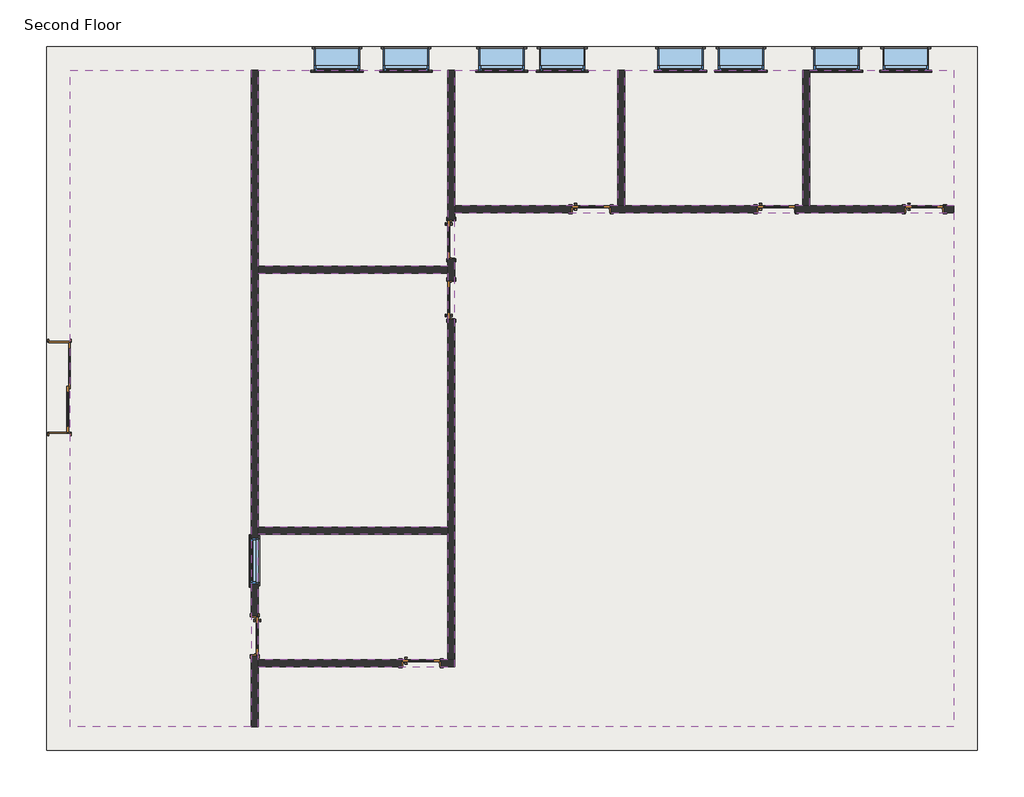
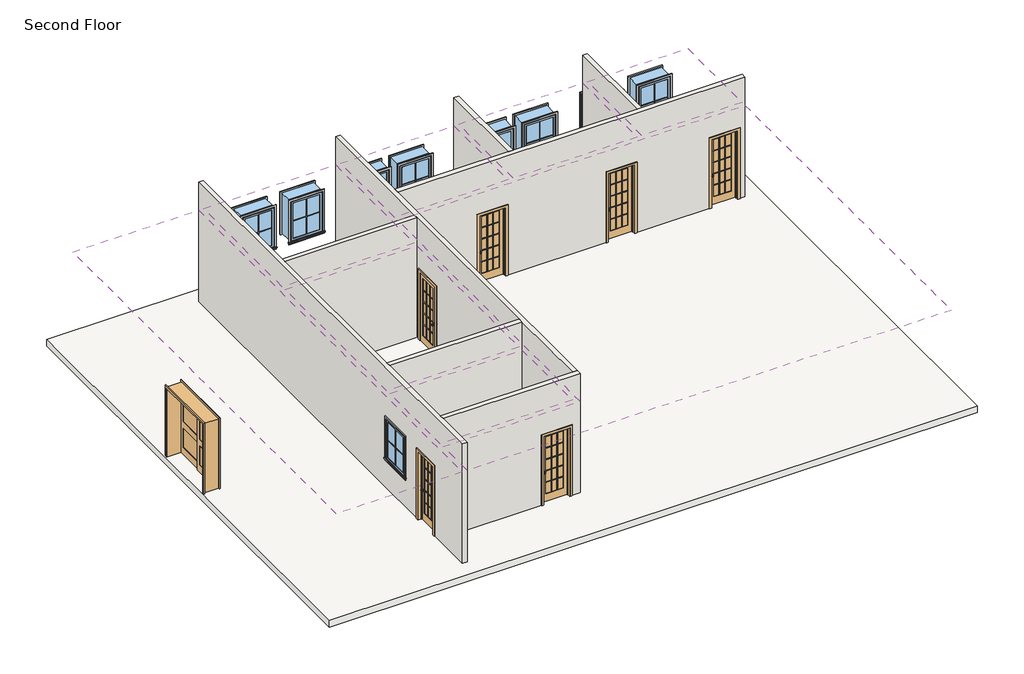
# One storey: 27 proxies, 9 windows, 8 coverings, 8 doors, 8 walls, 1 slab.
"""IFC4 building model written with IfcOpenShell, lengths in millimetres."""

from ifc_helpers import new_model, si_unit, frame, origin, place, context, project, spatial, polyline, outline, extrude, faceted_brep, transform, mapped, element, save
from components import muntin_pattern_2x2_muntin_pattern_2x2_49331bd8, muntin_pattern_2x2_muntin_pattern_2x2_a8e7a107, trim_window_exterior_flat_with_sill_cdc255b3, trim_window_exterior_flat_with_sill_0ab60cae, trim_window_interior_flat_picture_frame_ab41cb78, trim_window_interior_flat_picture_frame_2efe6088, m_door_interior_double_sliding_2_panel_wood_1800_x_2100mm_b8cd72e9, m_door_interior_single_full_glass_wood_750_x_2100mm_ded28596, m_door_interior_single_full_glass_wood_750_x_2100mm_01f99739, window_awning_single_915_x_1220_b06b9331, window_awning_single_915_x_1220_597a1cb3, window_awning_single_915_x_1220_ba5cffbd

model = new_model("IFC4")

# Units and contexts
model_context = context("Model", 3, world=origin())
ifc_project = project(units=[si_unit("LENGTHUNIT", "METRE", prefix="MILLI")], contexts=[model_context])

# Site, building, storey
site = spatial("IfcSite", under=ifc_project)
building = spatial("IfcBuilding", under=site)
storey = spatial("IfcBuildingStorey", under=building, Name="Second Floor", Elevation=7200.0)

# Proxies
placement = place(None, origin())
muntin_pattern_2x2_muntin_pattern_2x2_shape = muntin_pattern_2x2_muntin_pattern_2x2_49331bd8(model_context)
element("IfcBuildingElementProxy", 1, Name="Muntin Pattern_2x2 : Muntin Pattern_2x2", ObjectType="Muntin Pattern_2x2 : Muntin Pattern_2x2", at=placement, inside=storey, context=model_context, shape_type="MappedRepresentation", body=[
    mapped(muntin_pattern_2x2_muntin_pattern_2x2_shape, transform((-13370.5350037, -4799.4136534, 8184.25), x_axis=(0.0, 1.0, 0.0), y_axis=(-1.0, 0.0, 0.0), z_axis=(0.0, 0.0, 1.0))),
])
element("IfcBuildingElementProxy", 2, Name="Muntin Pattern_2x2 : Muntin Pattern_2x2", ObjectType="Muntin Pattern_2x2 : Muntin Pattern_2x2", at=placement, inside=storey, context=model_context, shape_type="MappedRepresentation", body=[
    mapped(muntin_pattern_2x2_muntin_pattern_2x2_shape, transform((-1590.3100037, 5089.7613466, 8184.25), x_axis=(-1.0, 0.0, 0.0), y_axis=(0.0, -1.0, 0.0), z_axis=(0.0, 0.0, 1.0))),
])
element("IfcBuildingElementProxy", 3, Name="Muntin Pattern_2x2 : Muntin Pattern_2x2", ObjectType="Muntin Pattern_2x2 : Muntin Pattern_2x2", at=placement, inside=storey, context=model_context, shape_type="MappedRepresentation", body=[
    mapped(muntin_pattern_2x2_muntin_pattern_2x2_shape, transform((-198.934993, 5089.7613466, 8184.25), x_axis=(-1.0, 0.0, 0.0), y_axis=(0.0, -1.0, 0.0), z_axis=(0.0, 0.0, 1.0))),
])
element("IfcBuildingElementProxy", 4, Name="Muntin Pattern_2x2 : Muntin Pattern_2x2", ObjectType="Muntin Pattern_2x2 : Muntin Pattern_2x2", at=placement, inside=storey, context=model_context, shape_type="MappedRepresentation", body=[
    mapped(muntin_pattern_2x2_muntin_pattern_2x2_shape, transform((-3517.3100037, 5089.7613466, 8184.25), x_axis=(-1.0, 0.0, 0.0), y_axis=(0.0, -1.0, 0.0), z_axis=(0.0, 0.0, 1.0))),
])
element("IfcBuildingElementProxy", 5, Name="Muntin Pattern_2x2 : Muntin Pattern_2x2", ObjectType="Muntin Pattern_2x2 : Muntin Pattern_2x2", at=placement, inside=storey, context=model_context, shape_type="MappedRepresentation", body=[
    mapped(muntin_pattern_2x2_muntin_pattern_2x2_shape, transform((-4736.5100037, 5089.7613466, 8184.25), x_axis=(-1.0, 0.0, 0.0), y_axis=(0.0, -1.0, 0.0), z_axis=(0.0, 0.0, 1.0))),
])
muntin_pattern_2x2_muntin_pattern_2x2_2_shape = muntin_pattern_2x2_muntin_pattern_2x2_a8e7a107(model_context)
element("IfcBuildingElementProxy", 6, Name="Muntin Pattern_2x2 : Muntin Pattern_2x2", ObjectType="Muntin Pattern_2x2 : Muntin Pattern_2x2", at=placement, inside=storey, context=model_context, shape_type="MappedRepresentation", body=[
    mapped(muntin_pattern_2x2_muntin_pattern_2x2_2_shape, transform((-10263.2100037, 5089.7613466, 8184.25), x_axis=(1.0, 0.0, 0.0), y_axis=(0.0, 1.0, 0.0), z_axis=(0.0, 0.0, 1.0))),
])
element("IfcBuildingElementProxy", 7, Name="Muntin Pattern_2x2 : Muntin Pattern_2x2", ObjectType="Muntin Pattern_2x2 : Muntin Pattern_2x2", at=placement, inside=storey, context=model_context, shape_type="MappedRepresentation", body=[
    mapped(muntin_pattern_2x2_muntin_pattern_2x2_2_shape, transform((-11654.5850143, 5089.7613466, 8184.25), x_axis=(1.0, 0.0, 0.0), y_axis=(0.0, 1.0, 0.0), z_axis=(0.0, 0.0, 1.0))),
])
element("IfcBuildingElementProxy", 8, Name="Muntin Pattern_2x2 : Muntin Pattern_2x2", ObjectType="Muntin Pattern_2x2 : Muntin Pattern_2x2", at=placement, inside=storey, context=model_context, shape_type="MappedRepresentation", body=[
    mapped(muntin_pattern_2x2_muntin_pattern_2x2_2_shape, transform((-8336.2100037, 5089.7613466, 8184.25), x_axis=(1.0, 0.0, 0.0), y_axis=(0.0, 1.0, 0.0), z_axis=(0.0, 0.0, 1.0))),
])
element("IfcBuildingElementProxy", 9, Name="Muntin Pattern_2x2 : Muntin Pattern_2x2", ObjectType="Muntin Pattern_2x2 : Muntin Pattern_2x2", at=placement, inside=storey, context=model_context, shape_type="MappedRepresentation", body=[
    mapped(muntin_pattern_2x2_muntin_pattern_2x2_2_shape, transform((-7117.0100037, 5089.7613466, 8184.25), x_axis=(1.0, 0.0, 0.0), y_axis=(0.0, 1.0, 0.0), z_axis=(0.0, 0.0, 1.0))),
])
trim_window_exterior_flat_with_sill_shape = trim_window_exterior_flat_with_sill_cdc255b3(model_context)
element("IfcBuildingElementProxy", 10, Name="Trim-Window-Exterior-Flat : with Sill", ObjectType="Trim-Window-Exterior-Flat : with Sill", at=placement, inside=storey, context=model_context, shape_type="MappedRepresentation", body=[
    mapped(trim_window_exterior_flat_with_sill_shape, transform((-13380.0600037, -4799.4136534, 9334.4), x_axis=(0.0, -1.0, 0.0), y_axis=(0.0, 0.0, 1.0), z_axis=(-1.0, 0.0, 0.0))),
])
element("IfcBuildingElementProxy", 11, Name="Trim-Window-Exterior-Flat : with Sill", ObjectType="Trim-Window-Exterior-Flat : with Sill", at=placement, inside=storey, context=model_context, shape_type="MappedRepresentation", body=[
    mapped(trim_window_exterior_flat_with_sill_shape, transform((-1590.3100037, 5080.2363466, 9334.4), x_axis=(1.0, 0.0, 0.0), y_axis=(0.0, 0.0, 1.0), z_axis=(0.0, -1.0, 0.0))),
])
element("IfcBuildingElementProxy", 12, Name="Trim-Window-Exterior-Flat : with Sill", ObjectType="Trim-Window-Exterior-Flat : with Sill", at=placement, inside=storey, context=model_context, shape_type="MappedRepresentation", body=[
    mapped(trim_window_exterior_flat_with_sill_shape, transform((-198.934993, 5080.2363466, 9334.4), x_axis=(1.0, 0.0, 0.0), y_axis=(0.0, 0.0, 1.0), z_axis=(0.0, -1.0, 0.0))),
])
element("IfcBuildingElementProxy", 13, Name="Trim-Window-Exterior-Flat : with Sill", ObjectType="Trim-Window-Exterior-Flat : with Sill", at=placement, inside=storey, context=model_context, shape_type="MappedRepresentation", body=[
    mapped(trim_window_exterior_flat_with_sill_shape, transform((-3517.3100037, 5080.2363466, 9334.4), x_axis=(1.0, 0.0, 0.0), y_axis=(0.0, 0.0, 1.0), z_axis=(0.0, -1.0, 0.0))),
])
element("IfcBuildingElementProxy", 14, Name="Trim-Window-Exterior-Flat : with Sill", ObjectType="Trim-Window-Exterior-Flat : with Sill", at=placement, inside=storey, context=model_context, shape_type="MappedRepresentation", body=[
    mapped(trim_window_exterior_flat_with_sill_shape, transform((-4736.5100037, 5080.2363466, 9334.4), x_axis=(1.0, 0.0, 0.0), y_axis=(0.0, 0.0, 1.0), z_axis=(0.0, -1.0, 0.0))),
])
trim_window_exterior_flat_with_sill_2_shape = trim_window_exterior_flat_with_sill_0ab60cae(model_context)
element("IfcBuildingElementProxy", 15, Name="Trim-Window-Exterior-Flat : with Sill", ObjectType="Trim-Window-Exterior-Flat : with Sill", at=placement, inside=storey, context=model_context, shape_type="MappedRepresentation", body=[
    mapped(trim_window_exterior_flat_with_sill_2_shape, transform((-10263.2100037, 5080.2363466, 9334.4), x_axis=(-1.0, 0.0, 0.0), y_axis=(0.0, 0.0, -1.0), z_axis=(0.0, -1.0, 0.0))),
])
element("IfcBuildingElementProxy", 16, Name="Trim-Window-Exterior-Flat : with Sill", ObjectType="Trim-Window-Exterior-Flat : with Sill", at=placement, inside=storey, context=model_context, shape_type="MappedRepresentation", body=[
    mapped(trim_window_exterior_flat_with_sill_2_shape, transform((-11654.5850143, 5080.2363466, 9334.4), x_axis=(-1.0, 0.0, 0.0), y_axis=(0.0, 0.0, -1.0), z_axis=(0.0, -1.0, 0.0))),
])
element("IfcBuildingElementProxy", 17, Name="Trim-Window-Exterior-Flat : with Sill", ObjectType="Trim-Window-Exterior-Flat : with Sill", at=placement, inside=storey, context=model_context, shape_type="MappedRepresentation", body=[
    mapped(trim_window_exterior_flat_with_sill_2_shape, transform((-8336.2100037, 5080.2363466, 9334.4), x_axis=(-1.0, 0.0, 0.0), y_axis=(0.0, 0.0, -1.0), z_axis=(0.0, -1.0, 0.0))),
])
element("IfcBuildingElementProxy", 18, Name="Trim-Window-Exterior-Flat : with Sill", ObjectType="Trim-Window-Exterior-Flat : with Sill", at=placement, inside=storey, context=model_context, shape_type="MappedRepresentation", body=[
    mapped(trim_window_exterior_flat_with_sill_2_shape, transform((-7117.0100037, 5080.2363466, 9334.4), x_axis=(-1.0, 0.0, 0.0), y_axis=(0.0, 0.0, -1.0), z_axis=(0.0, -1.0, 0.0))),
])
trim_window_interior_flat_picture_frame_shape = trim_window_interior_flat_picture_frame_ab41cb78(model_context)
element("IfcBuildingElementProxy", 19, Name="Trim-Window-Interior-Flat : Picture Frame", ObjectType="Trim-Window-Interior-Flat : Picture Frame", at=placement, inside=storey, context=model_context, shape_type="MappedRepresentation", body=[
    mapped(trim_window_interior_flat_picture_frame_shape, transform((-13241.5600037, -4799.4136534, 9334.4), x_axis=(0.0, 1.0, 0.0), y_axis=(0.0, 0.0, 1.0), z_axis=(1.0, 0.0, 0.0))),
])
element("IfcBuildingElementProxy", 20, Name="Trim-Window-Interior-Flat : Picture Frame", ObjectType="Trim-Window-Interior-Flat : Picture Frame", at=placement, inside=storey, context=model_context, shape_type="MappedRepresentation", body=[
    mapped(trim_window_interior_flat_picture_frame_shape, transform((-1590.3100037, 5509.2363466, 9334.4), x_axis=(-1.0, 0.0, 0.0), y_axis=(0.0, 0.0, 1.0), z_axis=(0.0, 1.0, 0.0))),
])
element("IfcBuildingElementProxy", 21, Name="Trim-Window-Interior-Flat : Picture Frame", ObjectType="Trim-Window-Interior-Flat : Picture Frame", at=placement, inside=storey, context=model_context, shape_type="MappedRepresentation", body=[
    mapped(trim_window_interior_flat_picture_frame_shape, transform((-198.934993, 5509.2363466, 9334.4), x_axis=(-1.0, 0.0, 0.0), y_axis=(0.0, 0.0, 1.0), z_axis=(0.0, 1.0, 0.0))),
])
element("IfcBuildingElementProxy", 22, Name="Trim-Window-Interior-Flat : Picture Frame", ObjectType="Trim-Window-Interior-Flat : Picture Frame", at=placement, inside=storey, context=model_context, shape_type="MappedRepresentation", body=[
    mapped(trim_window_interior_flat_picture_frame_shape, transform((-3517.3100037, 5509.2363466, 9334.4), x_axis=(-1.0, 0.0, 0.0), y_axis=(0.0, 0.0, 1.0), z_axis=(0.0, 1.0, 0.0))),
])
element("IfcBuildingElementProxy", 23, Name="Trim-Window-Interior-Flat : Picture Frame", ObjectType="Trim-Window-Interior-Flat : Picture Frame", at=placement, inside=storey, context=model_context, shape_type="MappedRepresentation", body=[
    mapped(trim_window_interior_flat_picture_frame_shape, transform((-4736.5100037, 5509.2363466, 9334.4), x_axis=(-1.0, 0.0, 0.0), y_axis=(0.0, 0.0, 1.0), z_axis=(0.0, 1.0, 0.0))),
])
trim_window_interior_flat_picture_frame_2_shape = trim_window_interior_flat_picture_frame_2efe6088(model_context)
element("IfcBuildingElementProxy", 24, Name="Trim-Window-Interior-Flat : Picture Frame", ObjectType="Trim-Window-Interior-Flat : Picture Frame", at=placement, inside=storey, context=model_context, shape_type="MappedRepresentation", body=[
    mapped(trim_window_interior_flat_picture_frame_2_shape, transform((-10263.2100037, 5509.2363466, 9334.4), x_axis=(1.0, 0.0, 0.0), y_axis=(0.0, 0.0, -1.0), z_axis=(0.0, 1.0, 0.0))),
])
element("IfcBuildingElementProxy", 25, Name="Trim-Window-Interior-Flat : Picture Frame", ObjectType="Trim-Window-Interior-Flat : Picture Frame", at=placement, inside=storey, context=model_context, shape_type="MappedRepresentation", body=[
    mapped(trim_window_interior_flat_picture_frame_2_shape, transform((-11654.5850143, 5509.2363466, 9334.4), x_axis=(1.0, 0.0, 0.0), y_axis=(0.0, 0.0, -1.0), z_axis=(0.0, 1.0, 0.0))),
])
element("IfcBuildingElementProxy", 26, Name="Trim-Window-Interior-Flat : Picture Frame", ObjectType="Trim-Window-Interior-Flat : Picture Frame", at=placement, inside=storey, context=model_context, shape_type="MappedRepresentation", body=[
    mapped(trim_window_interior_flat_picture_frame_2_shape, transform((-8336.2100037, 5509.2363466, 9334.4), x_axis=(1.0, 0.0, 0.0), y_axis=(0.0, 0.0, -1.0), z_axis=(0.0, 1.0, 0.0))),
])
element("IfcBuildingElementProxy", 27, Name="Trim-Window-Interior-Flat : Picture Frame", ObjectType="Trim-Window-Interior-Flat : Picture Frame", at=placement, inside=storey, context=model_context, shape_type="MappedRepresentation", body=[
    mapped(trim_window_interior_flat_picture_frame_2_shape, transform((-7117.0100037, 5509.2363466, 9334.4), x_axis=(1.0, 0.0, 0.0), y_axis=(0.0, 0.0, -1.0), z_axis=(0.0, 1.0, 0.0))),
])

# Coverings
element("IfcCovering", 28, ObjectType="Plain", at=placement, inside=storey, context=model_context, shape_type="SweptSolid", body=[
    extrude(outline(polyline([(-17024.8100037, 5080.2363466), (-13380.0600037, 5080.2363466), (-13380.0600037, -8139.7636534), (-17024.8100037, -8139.7636534), (-17024.8100037, 5080.2363466)])), frame((0.0, 0.0, 10000.0), z_axis=(0.0, 0.0, 1.0), x_axis=(1.0, 0.0, 0.0)), (0.0, 0.0, 1.0), 57.0),
])
element("IfcCovering", 29, ObjectType="Plain", at=placement, inside=storey, context=model_context, shape_type="SweptSolid", body=[
    extrude(outline(polyline([(-13241.5600037, 1130.2863466), (-13241.5600037, 5080.2363466), (-9418.0600037, 5080.2363466), (-9418.0600037, 1130.2863466), (-13241.5600037, 1130.2863466)])), frame((0.0, 0.0, 10000.0), z_axis=(0.0, 0.0, 1.0), x_axis=(1.0, 0.0, 0.0)), (0.0, 0.0, 1.0), 57.0),
])
element("IfcCovering", 30, ObjectType="Plain", at=placement, inside=storey, context=model_context, shape_type="SweptSolid", body=[
    extrude(outline(polyline([(-9418.0600037, -4120.5636534), (-13241.5600037, -4120.5636534), (-13241.5600037, 991.7863466), (-9418.0600037, 991.7863466), (-9418.0600037, -4120.5636534)])), frame((0.0, 0.0, 10000.0), z_axis=(0.0, 0.0, 1.0), x_axis=(1.0, 0.0, 0.0)), (0.0, 0.0, 1.0), 57.0),
])
element("IfcCovering", 31, ObjectType="Plain", at=placement, inside=storey, context=model_context, shape_type="SweptSolid", body=[
    extrude(outline(polyline([(-9418.0600037, -6794.5136534), (-13241.5600037, -6794.5136534), (-13241.5600037, -4259.0636534), (-9418.0600037, -4259.0636534), (-9418.0600037, -6794.5136534)])), frame((0.0, 0.0, 10000.0), z_axis=(0.0, 0.0, 1.0), x_axis=(1.0, 0.0, 0.0)), (0.0, 0.0, 1.0), 57.0),
])
element("IfcCovering", 32, ObjectType="Plain", at=placement, inside=storey, context=model_context, shape_type="SweptSolid", body=[
    extrude(outline(polyline([(767.1899963, -8139.7636534), (-13241.5600037, -8139.7636534), (-13241.5600037, -6933.0136534), (-9279.5600037, -6933.0136534), (-9279.5600037, 2210.9863466), (767.1899963, 2210.9863466), (767.1899963, -8139.7636534)])), frame((0.0, 0.0, 10000.0), z_axis=(0.0, 0.0, 1.0), x_axis=(1.0, 0.0, 0.0)), (0.0, 0.0, 1.0), 57.0),
])
element("IfcCovering", 33, ObjectType="Plain", at=placement, inside=storey, context=model_context, shape_type="SweptSolid", body=[
    extrude(outline(polyline([(-9279.5600037, 5080.2363466), (-5996.0100037, 5080.2363466), (-5996.0100037, 2349.4863466), (-9279.5600037, 2349.4863466), (-9279.5600037, 5080.2363466)])), frame((0.0, 0.0, 10000.0), z_axis=(0.0, 0.0, 1.0), x_axis=(1.0, 0.0, 0.0)), (0.0, 0.0, 1.0), 57.0),
])
element("IfcCovering", 34, ObjectType="Plain", at=placement, inside=storey, context=model_context, shape_type="SweptSolid", body=[
    extrude(outline(polyline([(-5857.5100037, 2349.4863466), (-5857.5100037, 5080.2363466), (-2269.1600037, 5080.2363466), (-2269.1600037, 2349.4863466), (-5857.5100037, 2349.4863466)])), frame((0.0, 0.0, 10000.0), z_axis=(0.0, 0.0, 1.0), x_axis=(1.0, 0.0, 0.0)), (0.0, 0.0, 1.0), 57.0),
])
element("IfcCovering", 35, ObjectType="Plain", at=placement, inside=storey, context=model_context, shape_type="SweptSolid", body=[
    extrude(outline(polyline([(-2130.6600037, 2349.4863466), (-2130.6600037, 5080.2363466), (767.1899963, 5080.2363466), (767.1899963, 2349.4863466), (-2130.6600037, 2349.4863466)])), frame((0.0, 0.0, 10000.0), z_axis=(0.0, 0.0, 1.0), x_axis=(1.0, 0.0, 0.0)), (0.0, 0.0, 1.0), 57.0),
])

# Doors
m_door_interior_double_sliding_2_panel_wood_1800_x_2100mm_shape = m_door_interior_double_sliding_2_panel_wood_1800_x_2100mm_b8cd72e9(model_context)
element("IfcDoor", 36, ObjectType="M_Door-Interior-Double-Sliding-2_Panel-Wood : 1800 x 2100mm", at=placement, inside=storey, context=model_context, shape_type="MappedRepresentation", body=[
    mapped(m_door_interior_double_sliding_2_panel_wood_1800_x_2100mm_shape, transform((-17236.1350037, -1306.0811162, 7200.0), x_axis=(0.0, -1.0, 0.0), y_axis=(1.0, 0.0, 0.0), z_axis=(0.0, 0.0, 1.0))),
])
m_door_interior_single_full_glass_wood_750_x_2100mm_shape = m_door_interior_single_full_glass_wood_750_x_2100mm_ded28596(model_context)
element("IfcDoor", 37, ObjectType="M_Door-Interior-Single-Full Glass-Wood : 750 x 2100mm", at=placement, inside=storey, context=model_context, shape_type="MappedRepresentation", body=[
    mapped(m_door_interior_single_full_glass_wood_750_x_2100mm_shape, transform((-13307.6350037, -6311.9136534, 7200.0), x_axis=(0.0, -1.0, 0.0), y_axis=(1.0, 0.0, 0.0), z_axis=(0.0, 0.0, 1.0))),
])
element("IfcDoor", 38, ObjectType="M_Door-Interior-Single-Full Glass-Wood : 750 x 2100mm", at=placement, inside=storey, context=model_context, shape_type="MappedRepresentation", body=[
    mapped(m_door_interior_single_full_glass_wood_750_x_2100mm_shape, transform((-9958.4100037, -6860.5886534, 7200.0), x_axis=(1.0, 0.0, 0.0), y_axis=(0.0, 1.0, 0.0), z_axis=(0.0, 0.0, 1.0))),
])
element("IfcDoor", 39, ObjectType="M_Door-Interior-Single-Full Glass-Wood : 750 x 2100mm", at=placement, inside=storey, context=model_context, shape_type="MappedRepresentation", body=[
    mapped(m_door_interior_single_full_glass_wood_750_x_2100mm_shape, transform((-9351.9850037, 451.4363466, 7200.0), x_axis=(0.0, 1.0, 0.0), y_axis=(-1.0, 0.0, 0.0), z_axis=(0.0, 0.0, 1.0))),
])
element("IfcDoor", 40, ObjectType="M_Door-Interior-Single-Full Glass-Wood : 750 x 2100mm", at=placement, inside=storey, context=model_context, shape_type="MappedRepresentation", body=[
    mapped(m_door_interior_single_full_glass_wood_750_x_2100mm_shape, transform((-6536.3600037, 2283.4113466, 7200.0), x_axis=(1.0, 0.0, 0.0), y_axis=(0.0, 1.0, 0.0), z_axis=(0.0, 0.0, 1.0))),
])
element("IfcDoor", 41, ObjectType="M_Door-Interior-Single-Full Glass-Wood : 750 x 2100mm", at=placement, inside=storey, context=model_context, shape_type="MappedRepresentation", body=[
    mapped(m_door_interior_single_full_glass_wood_750_x_2100mm_shape, transform((-2809.5100037, 2283.4113466, 7200.0), x_axis=(1.0, 0.0, 0.0), y_axis=(0.0, 1.0, 0.0), z_axis=(0.0, 0.0, 1.0))),
])
element("IfcDoor", 42, ObjectType="M_Door-Interior-Single-Full Glass-Wood : 750 x 2100mm", at=placement, inside=storey, context=model_context, shape_type="MappedRepresentation", body=[
    mapped(m_door_interior_single_full_glass_wood_750_x_2100mm_shape, transform((175.5899963, 2283.4113466, 7200.0), x_axis=(1.0, 0.0, 0.0), y_axis=(0.0, 1.0, 0.0), z_axis=(0.0, 0.0, 1.0))),
])
m_door_interior_single_full_glass_wood_750_x_2100mm_2_shape = m_door_interior_single_full_glass_wood_750_x_2100mm_01f99739(model_context)
element("IfcDoor", 43, ObjectType="M_Door-Interior-Single-Full Glass-Wood : 750 x 2100mm", at=placement, inside=storey, context=model_context, shape_type="MappedRepresentation", body=[
    mapped(m_door_interior_single_full_glass_wood_750_x_2100mm_2_shape, transform((-9351.9850037, 1670.6363466, 7200.0), x_axis=(0.0, -1.0, 0.0), y_axis=(1.0, 0.0, 0.0), z_axis=(0.0, 0.0, 1.0))),
])

# Slab
element("IfcSlab", 44, ObjectType="160mm Concrete With 50mm Metal Deck", at=placement, inside=storey, context=model_context, shape_type="SweptSolid", body=[
    extrude(outline(polyline([(1245.1899963, 5558.2363466), (1245.1899963, -8617.7636534), (-17502.8100037, -8617.7636534), (-17502.8100037, 5558.2363466), (1245.1899963, 5558.2363466)])), frame((0.0, 0.0, 6990.0), z_axis=(0.0, 0.0, 1.0), x_axis=(1.0, 0.0, 0.0)), (0.0, 0.0, 1.0), 210.0),
])

# Walls
element("IfcWall", 45, ObjectType="Interior - 138mm Partition (1-hr)", at=placement, inside=storey, context=model_context, shape_type="Brep", body=[
    faceted_brep([(-13380.0600037, -8139.7636534, 10858.0), (-13380.0600037, 5080.2363466, 10858.0), (-13380.0600037, 5080.2363466, 7200.0), (-13380.0600037, -5911.9136534, 7200.0), (-13380.0600037, -5911.9136534, 9325.0), (-13380.0600037, -6711.9136534, 9325.0), (-13380.0600037, -6711.9136534, 7200.0), (-13380.0600037, -8139.7636534, 7200.0), (-13380.0600037, -4341.9136534, 9334.4), (-13380.0600037, -5256.9136534, 9334.4), (-13380.0600037, -5256.9136534, 8114.4), (-13380.0600037, -4341.9136534, 8114.4), (-13241.5600037, 5080.2363466, 10858.0), (-13241.5600037, 1130.2863466, 10858.0), (-13241.5600037, 991.7863466, 10858.0), (-13241.5600037, -4120.5636534, 10858.0), (-13241.5600037, -4259.0636534, 10858.0), (-13241.5600037, -6794.5136534, 10858.0), (-13241.5600037, -6933.0136534, 10858.0), (-13241.5600037, -8139.7636534, 10858.0), (-13241.5600037, -8139.7636534, 7200.0), (-13241.5600037, -6933.0136534, 7200.0), (-13241.5600037, -6794.5136534, 7200.0), (-13241.5600037, -6711.9136534, 7200.0), (-13241.5600037, -6711.9136534, 9325.0), (-13241.5600037, -5911.9136534, 9325.0), (-13241.5600037, -5911.9136534, 7200.0), (-13241.5600037, -4259.0636534, 7200.0), (-13241.5600037, -4120.5636534, 7200.0), (-13241.5600037, 991.7863466, 7200.0), (-13241.5600037, 1130.2863466, 7200.0), (-13241.5600037, 5080.2363466, 7200.0), (-13241.5600037, -4341.9136534, 9334.4), (-13241.5600037, -4341.9136534, 8114.4), (-13241.5600037, -5256.9136534, 8114.4), (-13241.5600037, -5256.9136534, 9334.4)], [[[0, 1, 2, 3, 4, 5, 6, 7], [8, 9, 10, 11]], [[12, 13, 14, 15, 16, 17, 18, 19, 20, 21, 22, 23, 24, 25, 26, 27, 28, 29, 30, 31], [32, 33, 34, 35]], [[2, 31, 30, 29, 28, 27, 26, 3]], [[20, 7, 6, 23, 22, 21]], [[1, 0, 19, 18, 17, 16, 15, 14, 13, 12]], [[5, 24, 23, 6]], [[24, 5, 4, 25]], [[25, 4, 3, 26]], [[33, 32, 8, 11]], [[34, 33, 11, 10]], [[35, 34, 10, 9]], [[32, 35, 9, 8]], [[2, 1, 12, 31]], [[0, 7, 20, 19]]]),
])
element("IfcWall", 46, ObjectType="Interior - 138mm Partition (1-hr)", at=placement, inside=storey, context=model_context, shape_type="Brep", body=[
    faceted_brep([(-9279.5600037, -6933.0136534, 10858.0), (-13241.5600037, -6933.0136534, 10858.0), (-13241.5600037, -6933.0136534, 7200.0), (-10358.4100037, -6933.0136534, 7200.0), (-10358.4100037, -6933.0136534, 9325.0), (-9558.4100037, -6933.0136534, 9325.0), (-9558.4100037, -6933.0136534, 7200.0), (-9279.5600037, -6933.0136534, 7200.0), (-13241.5600037, -6794.5136534, 10858.0), (-9418.0600037, -6794.5136534, 10858.0), (-9279.5600037, -6794.5136534, 10858.0), (-9279.5600037, -6794.5136534, 7200.0), (-9418.0600037, -6794.5136534, 7200.0), (-9558.4100037, -6794.5136534, 7200.0), (-9558.4100037, -6794.5136534, 9325.0), (-10358.4100037, -6794.5136534, 9325.0), (-10358.4100037, -6794.5136534, 7200.0), (-13241.5600037, -6794.5136534, 7200.0)], [[[0, 1, 2, 3, 4, 5, 6, 7]], [[8, 9, 10, 11, 12, 13, 14, 15, 16, 17]], [[2, 17, 16, 3]], [[11, 7, 6, 13, 12]], [[1, 0, 10, 9, 8]], [[2, 1, 8, 17]], [[0, 7, 11, 10]], [[5, 14, 13, 6]], [[14, 5, 4, 15]], [[15, 4, 3, 16]]]),
])
element("IfcWall", 47, ObjectType="Interior - 138mm Partition (1-hr)", at=placement, inside=storey, context=model_context, shape_type="Brep", body=[
    faceted_brep([(-9279.5600037, 5080.2363466, 10858.0), (-9279.5600037, 2349.4863466, 10858.0), (-9279.5600037, 2210.9863466, 10858.0), (-9279.5600037, -6794.5136534, 10858.0), (-9279.5600037, -6794.5136534, 7200.0), (-9279.5600037, 51.4363466, 7200.0), (-9279.5600037, 51.4363466, 9325.0), (-9279.5600037, 851.4363466, 9325.0), (-9279.5600037, 851.4363466, 7200.0), (-9279.5600037, 1270.6363466, 7200.0), (-9279.5600037, 1270.6363466, 9325.0), (-9279.5600037, 2070.6363466, 9325.0), (-9279.5600037, 2070.6363466, 7200.0), (-9279.5600037, 2210.9863466, 7200.0), (-9279.5600037, 2349.4863466, 7200.0), (-9279.5600037, 5080.2363466, 7200.0), (-9418.0600037, -6794.5136534, 10858.0), (-9418.0600037, -4259.0636534, 10858.0), (-9418.0600037, -4120.5636534, 10858.0), (-9418.0600037, 991.7863466, 10858.0), (-9418.0600037, 1130.2863466, 10858.0), (-9418.0600037, 5080.2363466, 10858.0), (-9418.0600037, 5080.2363466, 7200.0), (-9418.0600037, 2070.6363466, 7200.0), (-9418.0600037, 2070.6363466, 9325.0), (-9418.0600037, 1270.6363466, 9325.0), (-9418.0600037, 1270.6363466, 7200.0), (-9418.0600037, 1130.2863466, 7200.0), (-9418.0600037, 991.7863466, 7200.0), (-9418.0600037, 851.4363466, 7200.0), (-9418.0600037, 851.4363466, 9325.0), (-9418.0600037, 51.4363466, 9325.0), (-9418.0600037, 51.4363466, 7200.0), (-9418.0600037, -4120.5636534, 7200.0), (-9418.0600037, -4259.0636534, 7200.0), (-9418.0600037, -6794.5136534, 7200.0)], [[[0, 1, 2, 3, 4, 5, 6, 7, 8, 9, 10, 11, 12, 13, 14, 15]], [[16, 17, 18, 19, 20, 21, 22, 23, 24, 25, 26, 27, 28, 29, 30, 31, 32, 33, 34, 35]], [[4, 35, 34, 33, 32, 5]], [[8, 29, 28, 27, 26, 9]], [[22, 15, 14, 13, 12, 23]], [[3, 2, 1, 0, 21, 20, 19, 18, 17, 16]], [[4, 3, 16, 35]], [[7, 30, 29, 8]], [[30, 7, 6, 31]], [[31, 6, 5, 32]], [[25, 10, 9, 26]], [[10, 25, 24, 11]], [[11, 24, 23, 12]], [[0, 15, 22, 21]]]),
])
element("IfcWall", 48, ObjectType="Interior - 138mm Partition (1-hr)", at=placement, inside=storey, context=model_context, shape_type="Brep", body=[
    faceted_brep([(767.1899963, 2210.9863466, 10858.0), (-9279.5600037, 2210.9863466, 10858.0), (-9279.5600037, 2210.9863466, 7200.0), (-6936.3600037, 2210.9863466, 7200.0), (-6936.3600037, 2210.9863466, 9325.0), (-6136.3600037, 2210.9863466, 9325.0), (-6136.3600037, 2210.9863466, 7200.0), (-3209.5100037, 2210.9863466, 7200.0), (-3209.5100037, 2210.9863466, 9325.0), (-2409.5100037, 2210.9863466, 9325.0), (-2409.5100037, 2210.9863466, 7200.0), (-224.4100037, 2210.9863466, 7200.0), (-224.4100037, 2210.9863466, 9325.0), (575.5899963, 2210.9863466, 9325.0), (575.5899963, 2210.9863466, 7200.0), (767.1899963, 2210.9863466, 7200.0), (-9279.5600037, 2349.4863466, 10858.0), (-5996.0100037, 2349.4863466, 10858.0), (-5857.5100037, 2349.4863466, 10858.0), (-2269.1600037, 2349.4863466, 10858.0), (-2130.6600037, 2349.4863466, 10858.0), (767.1899963, 2349.4863466, 10858.0), (767.1899963, 2349.4863466, 7200.0), (575.5899963, 2349.4863466, 7200.0), (575.5899963, 2349.4863466, 9325.0), (-224.4100037, 2349.4863466, 9325.0), (-224.4100037, 2349.4863466, 7200.0), (-2130.6600037, 2349.4863466, 7200.0), (-2269.1600037, 2349.4863466, 7200.0), (-2409.5100037, 2349.4863466, 7200.0), (-2409.5100037, 2349.4863466, 9325.0), (-3209.5100037, 2349.4863466, 9325.0), (-3209.5100037, 2349.4863466, 7200.0), (-5857.5100037, 2349.4863466, 7200.0), (-5996.0100037, 2349.4863466, 7200.0), (-6136.3600037, 2349.4863466, 7200.0), (-6136.3600037, 2349.4863466, 9325.0), (-6936.3600037, 2349.4863466, 9325.0), (-6936.3600037, 2349.4863466, 7200.0), (-9279.5600037, 2349.4863466, 7200.0)], [[[0, 1, 2, 3, 4, 5, 6, 7, 8, 9, 10, 11, 12, 13, 14, 15]], [[16, 17, 18, 19, 20, 21, 22, 23, 24, 25, 26, 27, 28, 29, 30, 31, 32, 33, 34, 35, 36, 37, 38, 39]], [[2, 39, 38, 3]], [[6, 35, 34, 33, 32, 7]], [[10, 29, 28, 27, 26, 11]], [[22, 15, 14, 23]], [[1, 0, 21, 20, 19, 18, 17, 16]], [[2, 1, 16, 39]], [[5, 36, 35, 6]], [[36, 5, 4, 37]], [[37, 4, 3, 38]], [[9, 30, 29, 10]], [[30, 9, 8, 31]], [[31, 8, 7, 32]], [[13, 24, 23, 14]], [[24, 13, 12, 25]], [[25, 12, 11, 26]], [[0, 15, 22, 21]]]),
])
element("IfcWall", 49, ObjectType="Interior - 138mm Partition (1-hr)", at=placement, inside=storey, context=model_context, shape_type="SweptSolid", body=[
    extrude(outline(polyline([(-9418.0600037, 991.7863466), (-13241.5600037, 991.7863466), (-13241.5600037, 1130.2863466), (-9418.0600037, 1130.2863466), (-9418.0600037, 991.7863466)])), frame((0.0, 0.0, 7200.0), z_axis=(0.0, 0.0, 1.0), x_axis=(1.0, 0.0, 0.0)), (0.0, 0.0, 1.0), 3658.0),
])
element("IfcWall", 50, ObjectType="Interior - 138mm Partition (1-hr)", at=placement, inside=storey, context=model_context, shape_type="SweptSolid", body=[
    extrude(outline(polyline([(-9418.0600037, -4259.0636534), (-13241.5600037, -4259.0636534), (-13241.5600037, -4120.5636534), (-9418.0600037, -4120.5636534), (-9418.0600037, -4259.0636534)])), frame((0.0, 0.0, 7200.0), z_axis=(0.0, 0.0, 1.0), x_axis=(1.0, 0.0, 0.0)), (0.0, 0.0, 1.0), 3658.0),
])
element("IfcWall", 51, ObjectType="Interior - 138mm Partition (1-hr)", at=placement, inside=storey, context=model_context, shape_type="SweptSolid", body=[
    extrude(outline(polyline([(-5996.0100037, 2349.4863466), (-5996.0100037, 5080.2363466), (-5857.5100037, 5080.2363466), (-5857.5100037, 2349.4863466), (-5996.0100037, 2349.4863466)])), frame((0.0, 0.0, 7200.0), z_axis=(0.0, 0.0, 1.0), x_axis=(1.0, 0.0, 0.0)), (0.0, 0.0, 1.0), 3658.0),
])
element("IfcWall", 52, ObjectType="Interior - 138mm Partition (1-hr)", at=placement, inside=storey, context=model_context, shape_type="SweptSolid", body=[
    extrude(outline(polyline([(-2269.1600037, 2349.4863466), (-2269.1600037, 5080.2363466), (-2130.6600037, 5080.2363466), (-2130.6600037, 2349.4863466), (-2269.1600037, 2349.4863466)])), frame((0.0, 0.0, 7200.0), z_axis=(0.0, 0.0, 1.0), x_axis=(1.0, 0.0, 0.0)), (0.0, 0.0, 1.0), 3658.0),
])

# Windows
window_awning_single_915_x_1220_shape = window_awning_single_915_x_1220_b06b9331(model_context)
element("IfcWindow", 53, ObjectType="Window-Awning-Single : 915 X 1220", at=placement, inside=storey, context=model_context, shape_type="MappedRepresentation", body=[
    mapped(window_awning_single_915_x_1220_shape, transform((-13310.8100037, -4799.4136534, 7200.0), x_axis=(0.0, 1.0, 0.0), y_axis=(-1.0, 0.0, 0.0), z_axis=(0.0, 0.0, 1.0))),
])
window_awning_single_915_x_1220_2_shape = window_awning_single_915_x_1220_597a1cb3(model_context)
element("IfcWindow", 54, ObjectType="Window-Awning-Single : 915 X 1220", at=placement, inside=storey, context=model_context, shape_type="MappedRepresentation", body=[
    mapped(window_awning_single_915_x_1220_2_shape, transform((-10263.2100037, 5294.7363466, 7200.0), x_axis=(1.0, 0.0, 0.0), y_axis=(0.0, 1.0, 0.0), z_axis=(0.0, 0.0, 1.0))),
])
element("IfcWindow", 55, ObjectType="Window-Awning-Single : 915 X 1220", at=placement, inside=storey, context=model_context, shape_type="MappedRepresentation", body=[
    mapped(window_awning_single_915_x_1220_2_shape, transform((-11654.5850143, 5294.7363466, 7200.0), x_axis=(1.0, 0.0, 0.0), y_axis=(0.0, 1.0, 0.0), z_axis=(0.0, 0.0, 1.0))),
])
element("IfcWindow", 56, ObjectType="Window-Awning-Single : 915 X 1220", at=placement, inside=storey, context=model_context, shape_type="MappedRepresentation", body=[
    mapped(window_awning_single_915_x_1220_2_shape, transform((-8336.2100037, 5294.7363466, 7200.0), x_axis=(1.0, 0.0, 0.0), y_axis=(0.0, 1.0, 0.0), z_axis=(0.0, 0.0, 1.0))),
])
element("IfcWindow", 57, ObjectType="Window-Awning-Single : 915 X 1220", at=placement, inside=storey, context=model_context, shape_type="MappedRepresentation", body=[
    mapped(window_awning_single_915_x_1220_2_shape, transform((-7117.0100037, 5294.7363466, 7200.0), x_axis=(1.0, 0.0, 0.0), y_axis=(0.0, 1.0, 0.0), z_axis=(0.0, 0.0, 1.0))),
])
window_awning_single_915_x_1220_3_shape = window_awning_single_915_x_1220_ba5cffbd(model_context)
element("IfcWindow", 58, ObjectType="Window-Awning-Single : 915 X 1220", at=placement, inside=storey, context=model_context, shape_type="MappedRepresentation", body=[
    mapped(window_awning_single_915_x_1220_3_shape, transform((-1590.3100037, 5294.7363466, 7200.0), x_axis=(-1.0, 0.0, 0.0), y_axis=(0.0, -1.0, 0.0), z_axis=(0.0, 0.0, 1.0))),
])
element("IfcWindow", 59, ObjectType="Window-Awning-Single : 915 X 1220", at=placement, inside=storey, context=model_context, shape_type="MappedRepresentation", body=[
    mapped(window_awning_single_915_x_1220_3_shape, transform((-198.934993, 5294.7363466, 7200.0), x_axis=(-1.0, 0.0, 0.0), y_axis=(0.0, -1.0, 0.0), z_axis=(0.0, 0.0, 1.0))),
])
element("IfcWindow", 60, ObjectType="Window-Awning-Single : 915 X 1220", at=placement, inside=storey, context=model_context, shape_type="MappedRepresentation", body=[
    mapped(window_awning_single_915_x_1220_3_shape, transform((-3517.3100037, 5294.7363466, 7200.0), x_axis=(-1.0, 0.0, 0.0), y_axis=(0.0, -1.0, 0.0), z_axis=(0.0, 0.0, 1.0))),
])
element("IfcWindow", 61, ObjectType="Window-Awning-Single : 915 X 1220", at=placement, inside=storey, context=model_context, shape_type="MappedRepresentation", body=[
    mapped(window_awning_single_915_x_1220_3_shape, transform((-4736.5100037, 5294.7363466, 7200.0), x_axis=(-1.0, 0.0, 0.0), y_axis=(0.0, -1.0, 0.0), z_axis=(0.0, 0.0, 1.0))),
])

save(model, "model.ifc")
